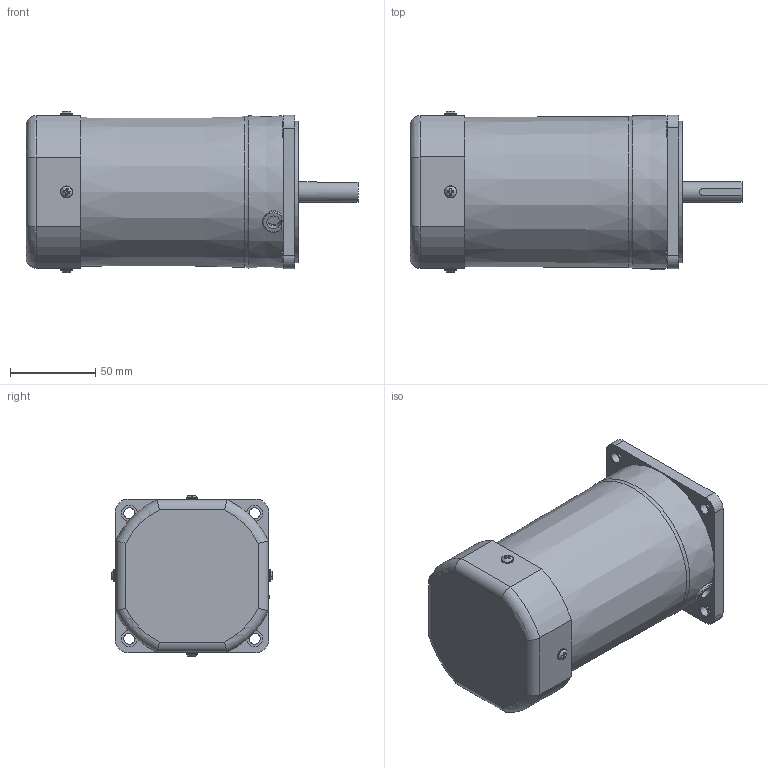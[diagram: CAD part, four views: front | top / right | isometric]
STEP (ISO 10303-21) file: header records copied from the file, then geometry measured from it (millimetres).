
FILE_DESCRIPTION((''),'2;1');
FILE_NAME('D:\STP파일\180W MOTOR\S9I180K.stp','2013-05-20T18:54:15',('leebh'),(''),'Autodesk Inventor 2011','Autodesk Inventor 2011','');
FILE_SCHEMA(('AUTOMOTIVE_DESIGN { 1 0 10303 214 1 1 1 1 }'));
Length unit declared in the file: millimetre
Products named in the file (1): S9I90G-T1
Bounding box: 194.8 x 94.79 x 94.75 mm (x, y, z)
Volume: 1006033.6 mm3; surface area: 67744.8 mm2
Topology: 1 solids, 4 shells, 176 faces, 437 edges, 285 vertices
Faces by surface type: plane 106, cylinder 46, torus 14, cone 6, bspline 4
Full cylindrical faces by diameter (mm): 4 x4, 6.5 x4, 7 x4, 8 x1, 9.5 x4, 10 x1, 12 x1, 40 x1, 83 x1
Entity records: 5448 total; most frequent: CARTESIAN_POINT 1431, DIRECTION 771, ORIENTED_EDGE 762, EDGE_CURVE 381, AXIS2_PLACEMENT_3D 280, VERTEX_POINT 270, EDGE_LOOP 247, VECTOR 211
